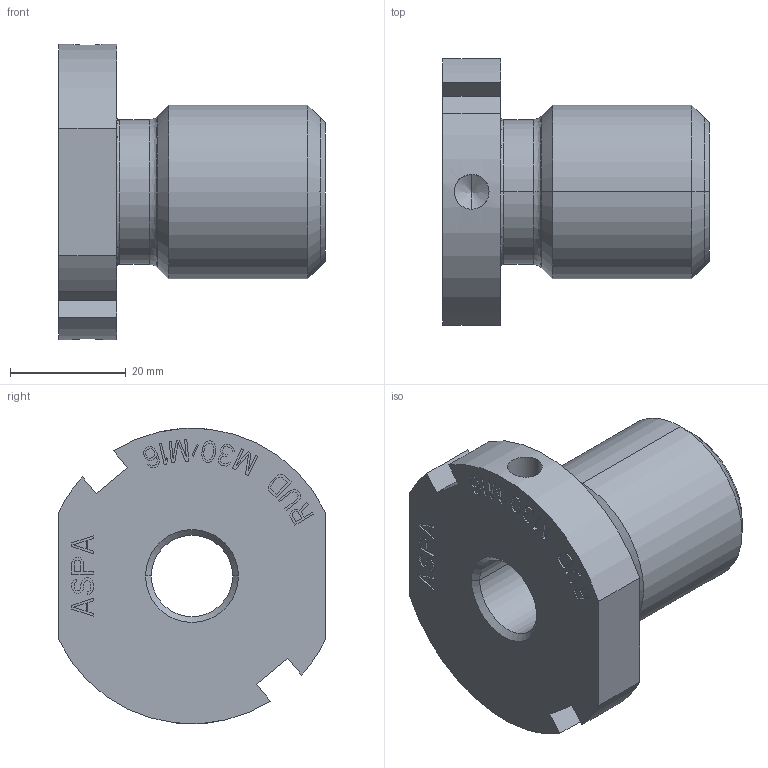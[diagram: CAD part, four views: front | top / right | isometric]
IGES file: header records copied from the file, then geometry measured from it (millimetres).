
Start section:  PTC IGES file: Gewindeadapter_ASPA_M30xM16_7993857_M32236-P-4.igs
Global section: file name: Gewindeadapter_ASPA_M30xM16_7993857_M32236-P-4.igs; native system: Pro/ENGINEER by Parametric Technology Corporation; preprocessor: 2010140; author: Andreas.Wendler; organization: Unknown; date: 20140604.075854; units: millimetre
Bounding box: 46 x 46 x 51 mm (x, y, z)
Volume: 34738.9 mm3; surface area: 45650.4 mm2
Topology: 1 solids, 3 shells, 446 faces, 1304 edges, 928 vertices
Faces by surface type: bspline 408, revolution 38
